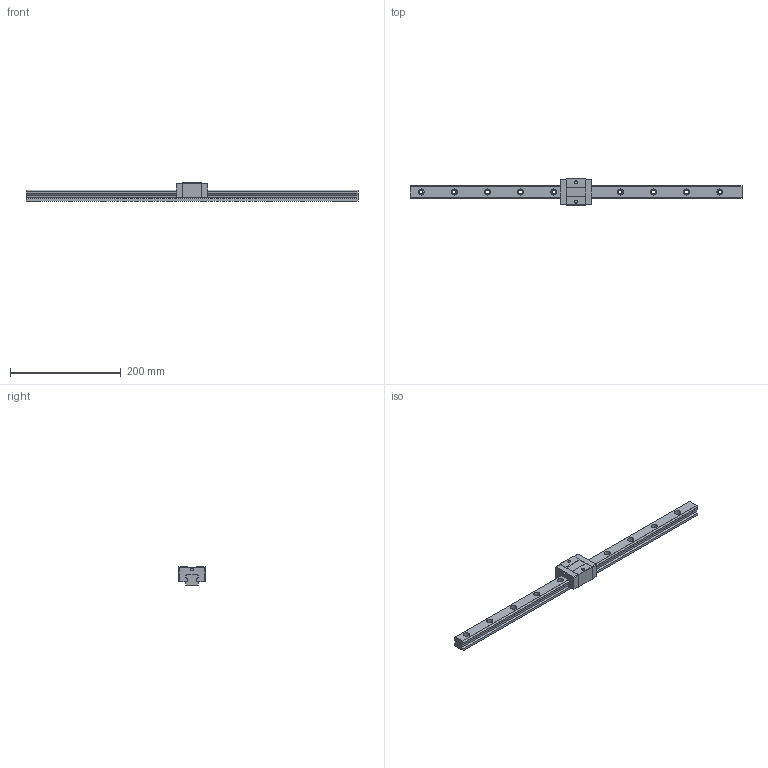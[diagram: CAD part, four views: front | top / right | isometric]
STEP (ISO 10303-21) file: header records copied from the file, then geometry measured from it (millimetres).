
FILE_DESCRIPTION (( 'STEP AP203' ), '1' );
FILE_NAME ('TRS25VS-XN.STEP', '2023-08-31T08:36:33', ( '' ), ( '' ), 'SwSTEP 2.0', 'SolidWorks 2022', '' );
FILE_SCHEMA (( 'CONFIG_CONTROL_DESIGN' ));
Length unit declared in the file: millimetre
Products named in the file (1): TRS25VS-XN
Bounding box: 600 x 48 x 33 mm (x, y, z)
Volume: 290542.5 mm3; surface area: 71375.8 mm2
Topology: 1 solids, 1 shells, 169 faces, 460 edges, 306 vertices
Faces by surface type: plane 85, cylinder 84
Entity records: 5505 total; most frequent: DIRECTION 970, CARTESIAN_POINT 936, ORIENTED_EDGE 920, EDGE_CURVE 460, AXIS2_PLACEMENT_3D 340, VERTEX_POINT 306, VECTOR 290, LINE 290
